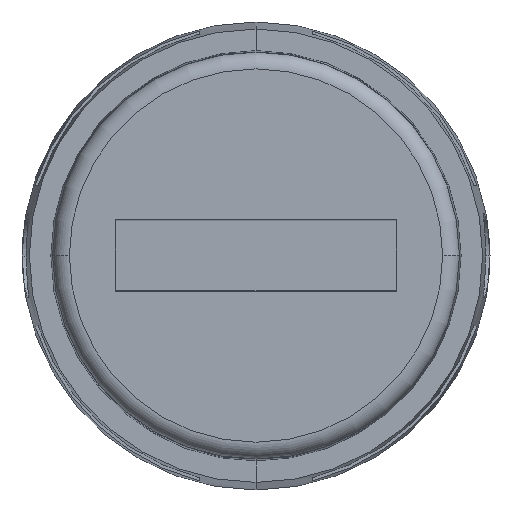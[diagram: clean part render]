
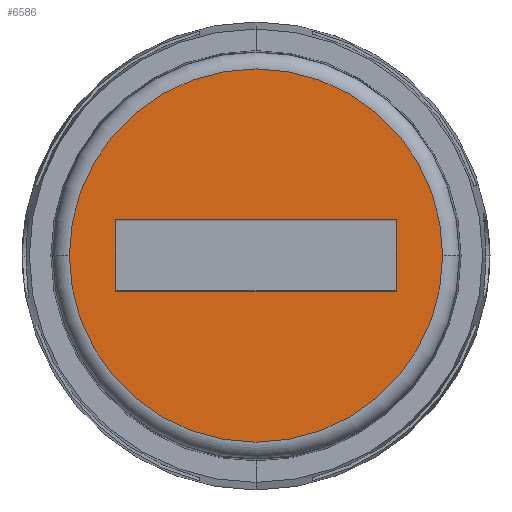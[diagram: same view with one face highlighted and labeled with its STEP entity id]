
A CAD part, top view. The second image highlights one B-rep face of the part: STEP entity #6586.
In plain terms, the highlighted planar face has unit normal (0, 0, 1).
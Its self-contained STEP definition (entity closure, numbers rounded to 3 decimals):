
#556=CARTESIAN_POINT('',(0.,0.,9.));
#557=DIRECTION('',(0.,0.,1.));
#558=DIRECTION('',(-1.,0.,0.));
#559=AXIS2_PLACEMENT_3D('',#556,#557,#558);
#580=DIRECTION('',(1.,0.,0.));
#581=VECTOR('',#580,10.061);
#582=CARTESIAN_POINT('',(-5.031,1.281,9.));
#583=LINE('',#582,#581);
#587=DIRECTION('',(0.,1.,0.));
#588=VECTOR('',#587,2.561);
#589=CARTESIAN_POINT('',(-5.031,-1.281,9.));
#590=LINE('',#589,#588);
#594=DIRECTION('',(-1.,0.,0.));
#595=VECTOR('',#594,10.061);
#596=CARTESIAN_POINT('',(5.031,-1.281,9.));
#597=LINE('',#596,#595);
#601=DIRECTION('',(0.,-1.,0.));
#602=VECTOR('',#601,2.561);
#603=CARTESIAN_POINT('',(5.031,1.281,9.));
#604=LINE('',#603,#602);
#664=CARTESIAN_POINT('',(0.,0.,9.));
#665=DIRECTION('',(0.,0.,1.));
#666=DIRECTION('',(1.,0.,0.));
#667=AXIS2_PLACEMENT_3D('',#664,#665,#666);
#5939=CARTESIAN_POINT('',(5.031,1.281,9.));
#5940=CARTESIAN_POINT('',(5.031,-1.281,9.));
#5941=VERTEX_POINT('',#5939);
#5942=VERTEX_POINT('',#5940);
#5943=CARTESIAN_POINT('',(-5.031,-1.281,9.));
#5944=VERTEX_POINT('',#5943);
#5945=CARTESIAN_POINT('',(-5.031,1.281,9.));
#5946=VERTEX_POINT('',#5945);
#5955=CARTESIAN_POINT('',(6.66,0.,9.));
#5956=CARTESIAN_POINT('',(-6.66,0.,9.));
#5957=VERTEX_POINT('',#5955);
#5958=VERTEX_POINT('',#5956);
#6566=CARTESIAN_POINT('',(-2.,0.,9.));
#6567=DIRECTION('',(0.,0.,1.));
#6568=DIRECTION('',(1.,0.,0.));
#6569=AXIS2_PLACEMENT_3D('',#6566,#6567,#6568);
#6570=PLANE('',#6569);
#6572=ORIENTED_EDGE('',*,*,#6571,.F.);
#6573=ORIENTED_EDGE('',*,*,#6549,.F.);
#6574=EDGE_LOOP('',(#6572,#6573));
#6575=FACE_OUTER_BOUND('',#6574,.F.);
#6577=ORIENTED_EDGE('',*,*,#6576,.F.);
#6579=ORIENTED_EDGE('',*,*,#6578,.F.);
#6581=ORIENTED_EDGE('',*,*,#6580,.F.);
#6583=ORIENTED_EDGE('',*,*,#6582,.F.);
#6584=EDGE_LOOP('',(#6577,#6579,#6581,#6583));
#6585=FACE_BOUND('',#6584,.F.);
#560=CIRCLE('',#559,6.66);
#668=CIRCLE('',#667,6.66);
#6549=EDGE_CURVE('',#5958,#5957,#560,.T.);
#6571=EDGE_CURVE('',#5957,#5958,#668,.T.);
#6576=EDGE_CURVE('',#5946,#5941,#583,.T.);
#6578=EDGE_CURVE('',#5944,#5946,#590,.T.);
#6580=EDGE_CURVE('',#5942,#5944,#597,.T.);
#6582=EDGE_CURVE('',#5941,#5942,#604,.T.);
#6586=ADVANCED_FACE('',(#6575,#6585),#6570,.T.);
